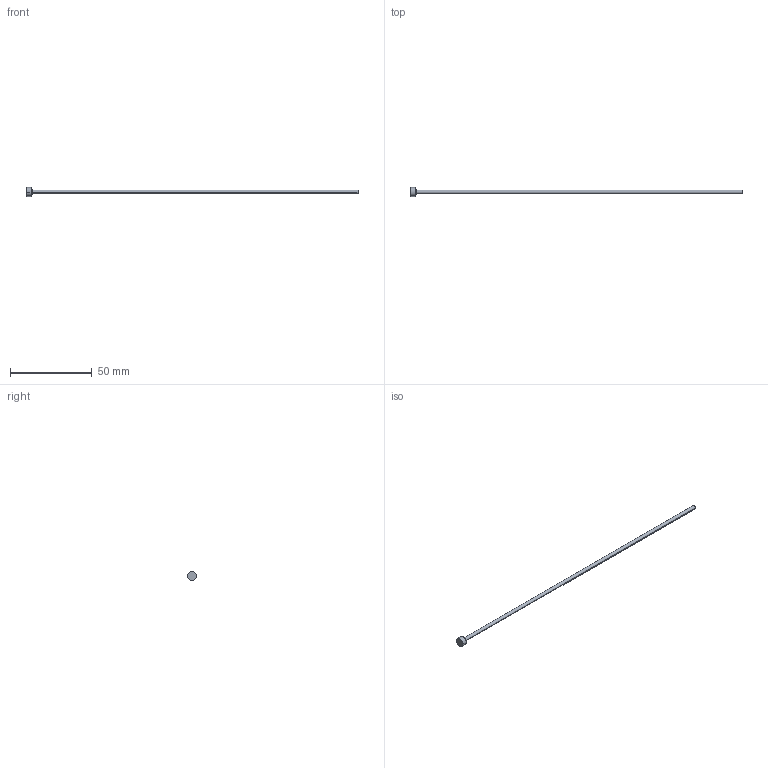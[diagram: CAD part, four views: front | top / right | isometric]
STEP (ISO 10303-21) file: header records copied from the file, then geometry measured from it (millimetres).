
FILE_DESCRIPTION (( 'STEP AP214' ), '1' );
FILE_NAME ('P7-8.STEP', '2020-03-11T17:11:07', ( '' ), ( '' ), 'SwSTEP 2.0', 'SolidWorks 2018', '' );
FILE_SCHEMA (( 'AUTOMOTIVE_DESIGN' ));
Length unit declared in the file: inch
Products named in the file (1): P7-8
Bounding box: 203.2 x 5.56 x 5.56 mm (x, y, z)
Volume: 963 mm3; surface area: 1591.2 mm2
Topology: 1 solids, 1 shells, 13 faces, 24 edges, 14 vertices
Faces by surface type: cone 4, cylinder 4, plane 3, torus 2
Entity records: 366 total; most frequent: DIRECTION 68, CARTESIAN_POINT 52, ORIENTED_EDGE 48, AXIS2_PLACEMENT_3D 30, EDGE_CURVE 24, CIRCLE 16, VERTEX_POINT 14, EDGE_LOOP 14
